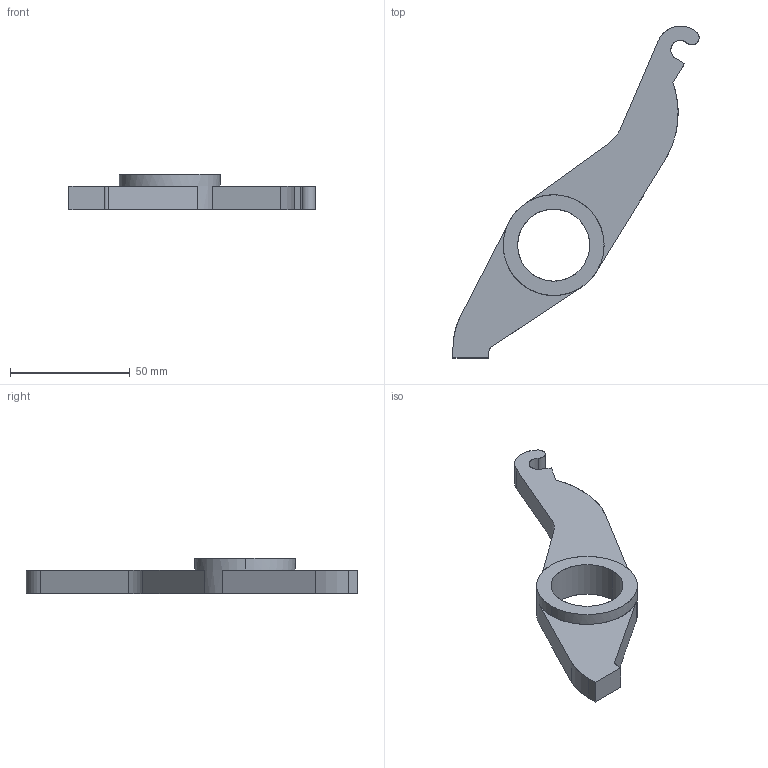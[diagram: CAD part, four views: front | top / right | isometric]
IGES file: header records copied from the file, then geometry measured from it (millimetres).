
Start section: SolidWorks IGES file using analytic representation for surfaces
Global section: file name: E:\Nouveau dossier\tarek\mécaniquee\L3GMCFM\TP0\EX12.IGS; native system: SolidWorks 2013; preprocessor: SolidWorks 2013; author: LENOVO; date: 180922.225828; units: millimetre
Bounding box: 102.61 x 138.35 x 15 mm (x, y, z)
Surface area: 12985.4 mm2 (no closed solid volume)
Topology: 0 solids, 0 shells, 26 faces, 460 edges, 460 vertices
Faces by surface type: bspline 14, revolution 12
